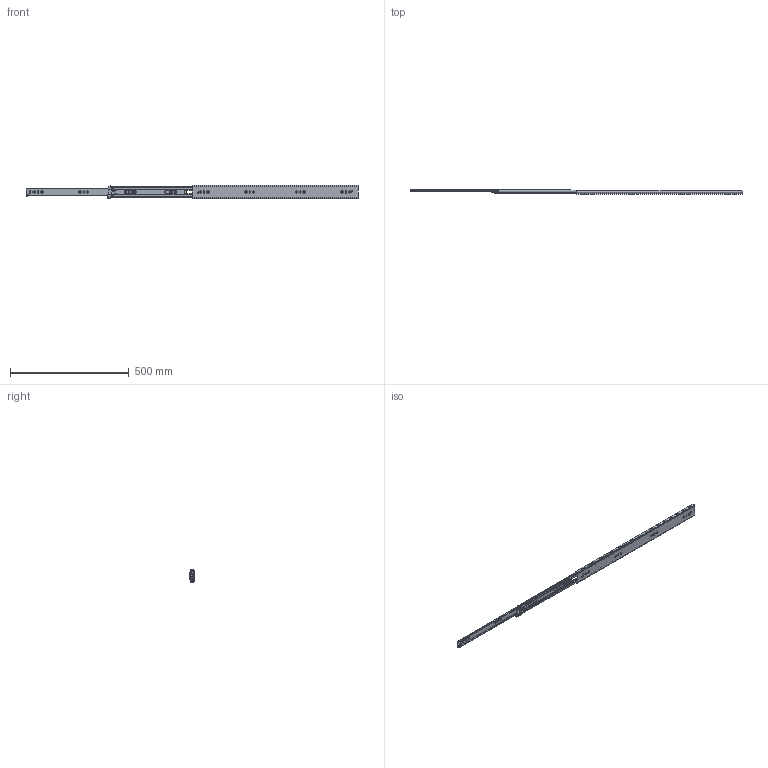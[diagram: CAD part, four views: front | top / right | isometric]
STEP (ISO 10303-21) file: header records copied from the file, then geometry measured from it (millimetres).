
FILE_DESCRIPTION((''),'2;1');
FILE_NAME('1057-C-28_ASM','2025-10-24T',('蔽翩'),(''),'CREO PARAMETRIC BY PTC INC, 2018220','CREO PARAMETRIC BY PTC INC, 2018220','');
FILE_SCHEMA(('CONFIG_CONTROL_DESIGN'));
Products named in the file (21): KP-57-01WEIKE-31____; MAODING-WAI____; 1057DAZHUJIA-20GE1____; 1057ZHUJIADANWEIJIAO123; 1057-5-6GANZHU1____; 1057DAZHUJIA-20GE_11________ASM; 1057-C-20-KE_____ASM; KP-57-01ZHONGGUI-28_________; PEIJIAN-22____; ZHUANJIAO112____; LIUJIAO-DING11____; MAODING-P____; 1057-XIAOJIAOLUN28; PEIJIAN-ZHONG_____ASM; 1057XIAOZHUJIA___20_____; 1057XIAOZHUJIA-20GE______ASM; KP-57-01ZHONGGUI-28__________ASM; KP-57-01NEIGUI-241____; XIN-JIAOGUAN28; KP-57-01NEIGUI-241_____ASM; 1057-C-28_ASM
Assembly tree (115 placements, depth 4):
  1057-C-28_ASM
    1057-C-20-KE_____ASM
      KP-57-01WEIKE-31____
      MAODING-WAI____  x2
      1057DAZHUJIA-20GE_11________ASM
        1057DAZHUJIA-20GE1____
        1057ZHUJIADANWEIJIAO123  x2
        1057-5-6GANZHU1____  x44
    KP-57-01ZHONGGUI-28__________ASM
      KP-57-01ZHONGGUI-28_________
      PEIJIAN-ZHONG_____ASM  x2
        PEIJIAN-22____
        ZHUANJIAO112____
        LIUJIAO-DING11____
        MAODING-P____
        1057-XIAOJIAOLUN28
      MAODING-WAI____  x2
      1057XIAOZHUJIA-20GE______ASM
        1057XIAOZHUJIA___20_____
        1057-5-6GANZHU1____  x44
        1057ZHUJIADANWEIJIAO123  x2
    KP-57-01NEIGUI-241_____ASM
      KP-57-01NEIGUI-241____
      XIN-JIAOGUAN28  x2
Bounding box: 1400 x 19.8 x 57.67 mm (x, y, z)
Volume: 295610.1 mm3; surface area: 342475 mm2
Topology: 113 solids, 113 shells, 3064 faces, 8460 edges, 5264 vertices
Faces by surface type: plane 1370, cylinder 1228, sphere 182, bspline 98, torus 96, cone 82, extrusion 8
Entity records: 84923 total; most frequent: CARTESIAN_POINT 18195, DIRECTION 14174, ORIENTED_EDGE 13810, EDGE_CURVE 6905, AXIS2_PLACEMENT_3D 4914, VERTEX_POINT 4446, VECTOR 4346, LINE 4342
